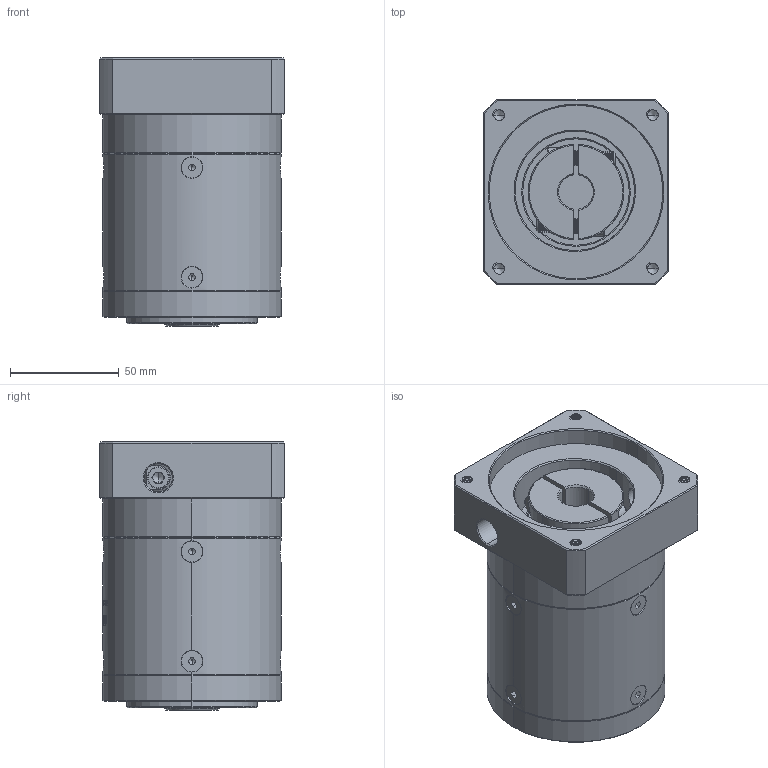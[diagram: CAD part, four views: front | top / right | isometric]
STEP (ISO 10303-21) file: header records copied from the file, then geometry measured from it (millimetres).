
FILE_DESCRIPTION (( 'STEP AP214' ), '1' );
FILE_NAME ('ZE80-K15-L2-16-80-100-M6.step', '2022-05-08T05:57:39', ( '' ), ( 'Microsoft' ), 'SwSTEP 2.0', 'SolidWorks 2016', '' );
FILE_SCHEMA (( 'AUTOMOTIVE_DESIGN' ));
Length unit declared in the file: millimetre
Products named in the file (1): ZE80-K15-L2-16-80-100-M6
Bounding box: 85 x 85 x 123.5 mm (x, y, z)
Volume: 595694 mm3; surface area: 89143.9 mm2
Topology: 13 solids, 13 shells, 2014 faces, 5249 edges, 3323 vertices
Faces by surface type: plane 884, cylinder 473, bspline 322, cone 318, torus 17
Entity records: 112168 total; most frequent: CARTESIAN_POINT 44766, ORIENTED_EDGE 10426, DIRECTION 8042, EDGE_CURVE 5213, VERTEX_POINT 3323, VECTOR 2814, LINE 2814, AXIS2_PLACEMENT_3D 2614
